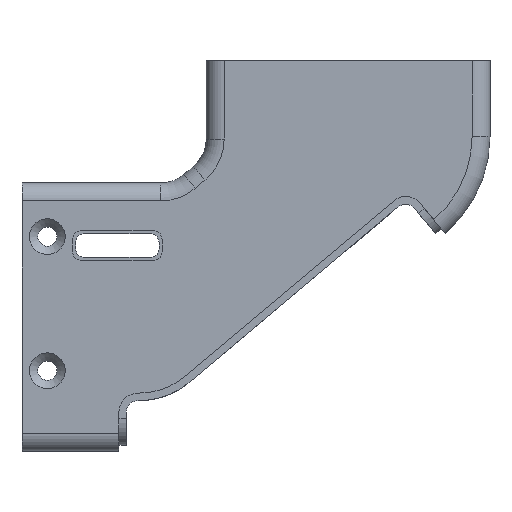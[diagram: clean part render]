
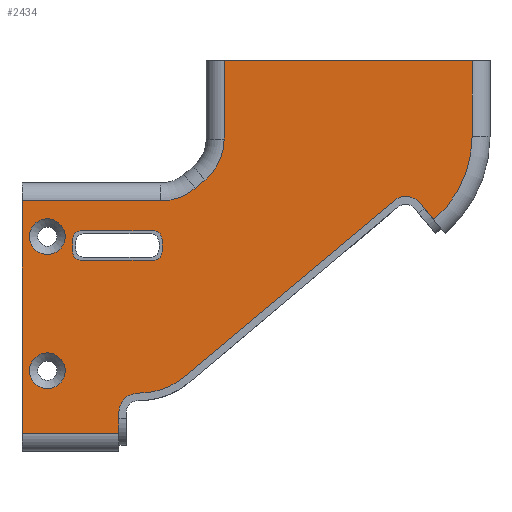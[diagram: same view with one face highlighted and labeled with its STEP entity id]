
A CAD part, left-side view. The second image highlights one B-rep face of the part: STEP entity #2434.
In plain terms, the highlighted planar face has unit normal (-1, 0, 0).
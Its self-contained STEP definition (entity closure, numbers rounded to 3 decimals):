
#26=FACE_BOUND('',#394,.T.);
#27=FACE_BOUND('',#395,.T.);
#28=FACE_BOUND('',#396,.T.);
#61=PLANE('',#2681);
#249=FACE_OUTER_BOUND('',#393,.T.);
#393=EDGE_LOOP('',(#2027,#2028,#2029,#2030,#2031,#2032,#2033,#2034,#2035,
#2036,#2037,#2038,#2039,#2040,#2041,#2042));
#394=EDGE_LOOP('',(#2043));
#395=EDGE_LOOP('',(#2044));
#396=EDGE_LOOP('',(#2045,#2046,#2047,#2048,#2049,#2050,#2051,#2052));
#572=LINE('',#4006,#777);
#577=LINE('',#4021,#782);
#582=LINE('',#4048,#787);
#584=LINE('',#4057,#789);
#587=LINE('',#4061,#792);
#592=LINE('',#4075,#797);
#593=LINE('',#4077,#798);
#594=LINE('',#4083,#799);
#595=LINE('',#4087,#800);
#596=LINE('',#4090,#801);
#597=LINE('',#4097,#802);
#598=LINE('',#4101,#803);
#599=LINE('',#4105,#804);
#600=LINE('',#4108,#805);
#777=VECTOR('',#3196,10.);
#782=VECTOR('',#3209,10.);
#787=VECTOR('',#3236,10.);
#789=VECTOR('',#3248,10.);
#792=VECTOR('',#3253,10.);
#797=VECTOR('',#3272,10.);
#798=VECTOR('',#3273,10.);
#799=VECTOR('',#3278,10.);
#800=VECTOR('',#3281,10.);
#801=VECTOR('',#3284,10.);
#802=VECTOR('',#3289,10.);
#803=VECTOR('',#3292,10.);
#804=VECTOR('',#3295,10.);
#805=VECTOR('',#3298,10.);
#872=CIRCLE('',#2508,3.);
#963=CIRCLE('',#2665,9.);
#967=CIRCLE('',#2671,9.);
#970=CIRCLE('',#2682,3.25);
#971=CIRCLE('',#2683,11.75);
#972=CIRCLE('',#2684,3.);
#973=CIRCLE('',#2685,18.5);
#974=CIRCLE('',#2686,3.);
#975=CIRCLE('',#2687,1.5);
#976=CIRCLE('',#2688,1.5);
#977=CIRCLE('',#2689,1.5);
#978=CIRCLE('',#2690,1.5);
#1020=VERTEX_POINT('',#3565);
#1157=VERTEX_POINT('',#4003);
#1158=VERTEX_POINT('',#4005);
#1163=VERTEX_POINT('',#4018);
#1164=VERTEX_POINT('',#4020);
#1172=VERTEX_POINT('',#4039);
#1173=VERTEX_POINT('',#4041);
#1175=VERTEX_POINT('',#4046);
#1177=VERTEX_POINT('',#4052);
#1179=VERTEX_POINT('',#4074);
#1180=VERTEX_POINT('',#4076);
#1181=VERTEX_POINT('',#4078);
#1182=VERTEX_POINT('',#4080);
#1183=VERTEX_POINT('',#4082);
#1184=VERTEX_POINT('',#4084);
#1185=VERTEX_POINT('',#4086);
#1186=VERTEX_POINT('',#4088);
#1187=VERTEX_POINT('',#4091);
#1188=VERTEX_POINT('',#4093);
#1189=VERTEX_POINT('',#4094);
#1190=VERTEX_POINT('',#4096);
#1191=VERTEX_POINT('',#4098);
#1192=VERTEX_POINT('',#4100);
#1193=VERTEX_POINT('',#4102);
#1194=VERTEX_POINT('',#4104);
#1195=VERTEX_POINT('',#4106);
#1255=EDGE_CURVE('',#1020,#1020,#872,.T.);
#1453=EDGE_CURVE('',#1158,#1157,#572,.F.);
#1460=EDGE_CURVE('',#1164,#1163,#577,.F.);
#1470=EDGE_CURVE('',#1172,#1173,#963,.T.);
#1473=EDGE_CURVE('',#1175,#1172,#582,.T.);
#1476=EDGE_CURVE('',#1177,#1175,#967,.T.);
#1478=EDGE_CURVE('',#1158,#1177,#584,.T.);
#1481=EDGE_CURVE('',#1173,#1163,#587,.T.);
#1487=EDGE_CURVE('',#1179,#1157,#592,.T.);
#1488=EDGE_CURVE('',#1179,#1180,#593,.F.);
#1489=EDGE_CURVE('',#1180,#1181,#970,.F.);
#1490=EDGE_CURVE('',#1181,#1182,#971,.F.);
#1491=EDGE_CURVE('',#1182,#1183,#594,.F.);
#1492=EDGE_CURVE('',#1184,#1183,#972,.T.);
#1493=EDGE_CURVE('',#1184,#1185,#595,.F.);
#1494=EDGE_CURVE('',#1186,#1185,#973,.T.);
#1495=EDGE_CURVE('',#1164,#1186,#596,.T.);
#1496=EDGE_CURVE('',#1187,#1187,#974,.T.);
#1497=EDGE_CURVE('',#1188,#1189,#975,.T.);
#1498=EDGE_CURVE('',#1190,#1188,#597,.F.);
#1499=EDGE_CURVE('',#1191,#1190,#976,.T.);
#1500=EDGE_CURVE('',#1192,#1191,#598,.F.);
#1501=EDGE_CURVE('',#1193,#1192,#977,.T.);
#1502=EDGE_CURVE('',#1194,#1193,#599,.F.);
#1503=EDGE_CURVE('',#1195,#1194,#978,.T.);
#1504=EDGE_CURVE('',#1189,#1195,#600,.F.);
#2027=ORIENTED_EDGE('',*,*,#1478,.F.);
#2028=ORIENTED_EDGE('',*,*,#1453,.T.);
#2029=ORIENTED_EDGE('',*,*,#1487,.F.);
#2030=ORIENTED_EDGE('',*,*,#1488,.T.);
#2031=ORIENTED_EDGE('',*,*,#1489,.T.);
#2032=ORIENTED_EDGE('',*,*,#1490,.T.);
#2033=ORIENTED_EDGE('',*,*,#1491,.T.);
#2034=ORIENTED_EDGE('',*,*,#1492,.F.);
#2035=ORIENTED_EDGE('',*,*,#1493,.T.);
#2036=ORIENTED_EDGE('',*,*,#1494,.F.);
#2037=ORIENTED_EDGE('',*,*,#1495,.F.);
#2038=ORIENTED_EDGE('',*,*,#1460,.T.);
#2039=ORIENTED_EDGE('',*,*,#1481,.F.);
#2040=ORIENTED_EDGE('',*,*,#1470,.F.);
#2041=ORIENTED_EDGE('',*,*,#1473,.F.);
#2042=ORIENTED_EDGE('',*,*,#1476,.F.);
#2043=ORIENTED_EDGE('',*,*,#1255,.T.);
#2044=ORIENTED_EDGE('',*,*,#1496,.T.);
#2045=ORIENTED_EDGE('',*,*,#1497,.F.);
#2046=ORIENTED_EDGE('',*,*,#1498,.F.);
#2047=ORIENTED_EDGE('',*,*,#1499,.F.);
#2048=ORIENTED_EDGE('',*,*,#1500,.F.);
#2049=ORIENTED_EDGE('',*,*,#1501,.F.);
#2050=ORIENTED_EDGE('',*,*,#1502,.F.);
#2051=ORIENTED_EDGE('',*,*,#1503,.F.);
#2052=ORIENTED_EDGE('',*,*,#1504,.F.);
#2434=ADVANCED_FACE('',(#249,#26,#27,#28),#61,.F.);
#2508=AXIS2_PLACEMENT_3D('',#3566,#2794,#2795);
#2665=AXIS2_PLACEMENT_3D('',#4042,#3228,#3229);
#2671=AXIS2_PLACEMENT_3D('',#4054,#3242,#3243);
#2681=AXIS2_PLACEMENT_3D('',#4073,#3270,#3271);
#2682=AXIS2_PLACEMENT_3D('',#4079,#3274,#3275);
#2683=AXIS2_PLACEMENT_3D('',#4081,#3276,#3277);
#2684=AXIS2_PLACEMENT_3D('',#4085,#3279,#3280);
#2685=AXIS2_PLACEMENT_3D('',#4089,#3282,#3283);
#2686=AXIS2_PLACEMENT_3D('',#4092,#3285,#3286);
#2687=AXIS2_PLACEMENT_3D('',#4095,#3287,#3288);
#2688=AXIS2_PLACEMENT_3D('',#4099,#3290,#3291);
#2689=AXIS2_PLACEMENT_3D('',#4103,#3293,#3294);
#2690=AXIS2_PLACEMENT_3D('',#4107,#3296,#3297);
#2794=DIRECTION('center_axis',(1.,0.,0.));
#2795=DIRECTION('ref_axis',(0.,-1.,0.));
#3196=DIRECTION('',(0.,0.,1.));
#3209=DIRECTION('',(0.,-1.,0.));
#3228=DIRECTION('center_axis',(-1.,0.,0.));
#3229=DIRECTION('ref_axis',(0.,-0.906,-0.423));
#3236=DIRECTION('',(0.,-0.766,0.643));
#3242=DIRECTION('center_axis',(-1.,0.,0.));
#3243=DIRECTION('ref_axis',(0.,-0.342,-0.94));
#3248=DIRECTION('',(0.,-1.,0.));
#3253=DIRECTION('',(0.,0.,1.));
#3270=DIRECTION('center_axis',(1.,0.,0.));
#3271=DIRECTION('ref_axis',(0.,1.,0.));
#3272=DIRECTION('',(0.,1.,0.));
#3273=DIRECTION('',(0.,0.,-1.));
#3274=DIRECTION('center_axis',(-1.,0.,0.));
#3275=DIRECTION('ref_axis',(0.,1.,0.));
#3276=DIRECTION('center_axis',(1.,0.,0.));
#3277=DIRECTION('ref_axis',(0.,-0.643,-0.766));
#3278=DIRECTION('',(0.,0.766,-0.643));
#3279=DIRECTION('center_axis',(-1.,0.,0.));
#3280=DIRECTION('ref_axis',(0.,-0.087,0.996));
#3281=DIRECTION('',(0.,0.643,0.766));
#3282=DIRECTION('center_axis',(1.,0.,0.));
#3283=DIRECTION('ref_axis',(0.,-0.906,-0.423));
#3284=DIRECTION('',(0.,0.,-1.));
#3285=DIRECTION('center_axis',(1.,0.,0.));
#3286=DIRECTION('ref_axis',(0.,-1.,0.));
#3287=DIRECTION('center_axis',(-1.,0.,0.));
#3288=DIRECTION('ref_axis',(0.,-0.707,-0.707));
#3289=DIRECTION('',(0.,1.,0.));
#3290=DIRECTION('center_axis',(-1.,0.,0.));
#3291=DIRECTION('ref_axis',(0.,0.707,-0.707));
#3292=DIRECTION('',(0.,0.,1.));
#3293=DIRECTION('center_axis',(-1.,0.,0.));
#3294=DIRECTION('ref_axis',(0.,0.707,0.707));
#3295=DIRECTION('',(0.,-1.,0.));
#3296=DIRECTION('center_axis',(-1.,0.,0.));
#3297=DIRECTION('ref_axis',(0.,-0.707,0.707));
#3298=DIRECTION('',(0.,0.,-1.));
#3565=CARTESIAN_POINT('',(-1.5,75.75,-29.5));
#3566=CARTESIAN_POINT('Origin',(-1.5,72.75,-29.5));
#4003=CARTESIAN_POINT('',(-1.5,77.,-62.5));
#4005=CARTESIAN_POINT('',(-1.5,77.,-23.5));
#4006=CARTESIAN_POINT('',(-1.5,77.,-48.));
#4018=CARTESIAN_POINT('',(-1.5,43.1,0.));
#4020=CARTESIAN_POINT('',(-1.5,1.5,0.));
#4021=CARTESIAN_POINT('',(-1.5,41.75,0.));
#4039=CARTESIAN_POINT('',(-1.5,46.315,-20.02));
#4041=CARTESIAN_POINT('',(-1.5,43.1,-13.125));
#4042=CARTESIAN_POINT('Origin',(-1.5,52.1,-13.125));
#4046=CARTESIAN_POINT('',(-1.5,47.953,-21.394));
#4048=CARTESIAN_POINT('',(-1.5,49.521,-22.71));
#4052=CARTESIAN_POINT('',(-1.5,53.738,-23.5));
#4054=CARTESIAN_POINT('Origin',(-1.5,53.738,-14.5));
#4057=CARTESIAN_POINT('',(-1.5,57.75,-23.5));
#4061=CARTESIAN_POINT('',(-1.5,43.1,-23.5));
#4073=CARTESIAN_POINT('Origin',(-1.5,38.5,-32.));
#4074=CARTESIAN_POINT('',(-1.5,60.75,-62.5));
#4075=CARTESIAN_POINT('',(-1.5,44.277,-62.5));
#4076=CARTESIAN_POINT('',(-1.5,60.75,-58.999));
#4077=CARTESIAN_POINT('',(-1.5,60.75,-49.532));
#4078=CARTESIAN_POINT('',(-1.5,57.464,-55.749));
#4079=CARTESIAN_POINT('Origin',(-1.5,57.5,-58.999));
#4080=CARTESIAN_POINT('',(-1.5,49.78,-53.001));
#4081=CARTESIAN_POINT('Origin',(-1.5,57.333,-44.));
#4082=CARTESIAN_POINT('',(-1.5,14.554,-23.443));
#4083=CARTESIAN_POINT('',(-1.5,41.3,-45.885));
#4084=CARTESIAN_POINT('',(-1.5,10.327,-23.812));
#4085=CARTESIAN_POINT('Origin',(-1.5,12.626,-25.741));
#4086=CARTESIAN_POINT('',(-1.5,7.918,-26.684));
#4087=CARTESIAN_POINT('',(-1.5,13.409,-20.14));
#4088=CARTESIAN_POINT('',(-1.5,1.5,-12.674));
#4089=CARTESIAN_POINT('Origin',(-1.5,20.,-12.674));
#4090=CARTESIAN_POINT('',(-1.5,1.5,-16.));
#4091=CARTESIAN_POINT('',(-1.5,75.75,-52.));
#4092=CARTESIAN_POINT('Origin',(-1.5,72.75,-52.));
#4093=CARTESIAN_POINT('',(-1.5,55.,-33.5));
#4094=CARTESIAN_POINT('',(-1.5,53.5,-32.));
#4095=CARTESIAN_POINT('Origin',(-1.5,55.,-32.));
#4096=CARTESIAN_POINT('',(-1.5,67.,-33.5));
#4097=CARTESIAN_POINT('',(-1.5,53.5,-33.5));
#4098=CARTESIAN_POINT('',(-1.5,68.5,-32.));
#4099=CARTESIAN_POINT('Origin',(-1.5,67.,-32.));
#4100=CARTESIAN_POINT('',(-1.5,68.5,-30.));
#4101=CARTESIAN_POINT('',(-1.5,68.5,-30.25));
#4102=CARTESIAN_POINT('',(-1.5,67.,-28.5));
#4103=CARTESIAN_POINT('Origin',(-1.5,67.,-30.));
#4104=CARTESIAN_POINT('',(-1.5,55.,-28.5));
#4105=CARTESIAN_POINT('',(-1.5,46.,-28.5));
#4106=CARTESIAN_POINT('',(-1.5,53.5,-30.));
#4107=CARTESIAN_POINT('Origin',(-1.5,55.,-30.));
#4108=CARTESIAN_POINT('',(-1.5,53.5,-32.75));
